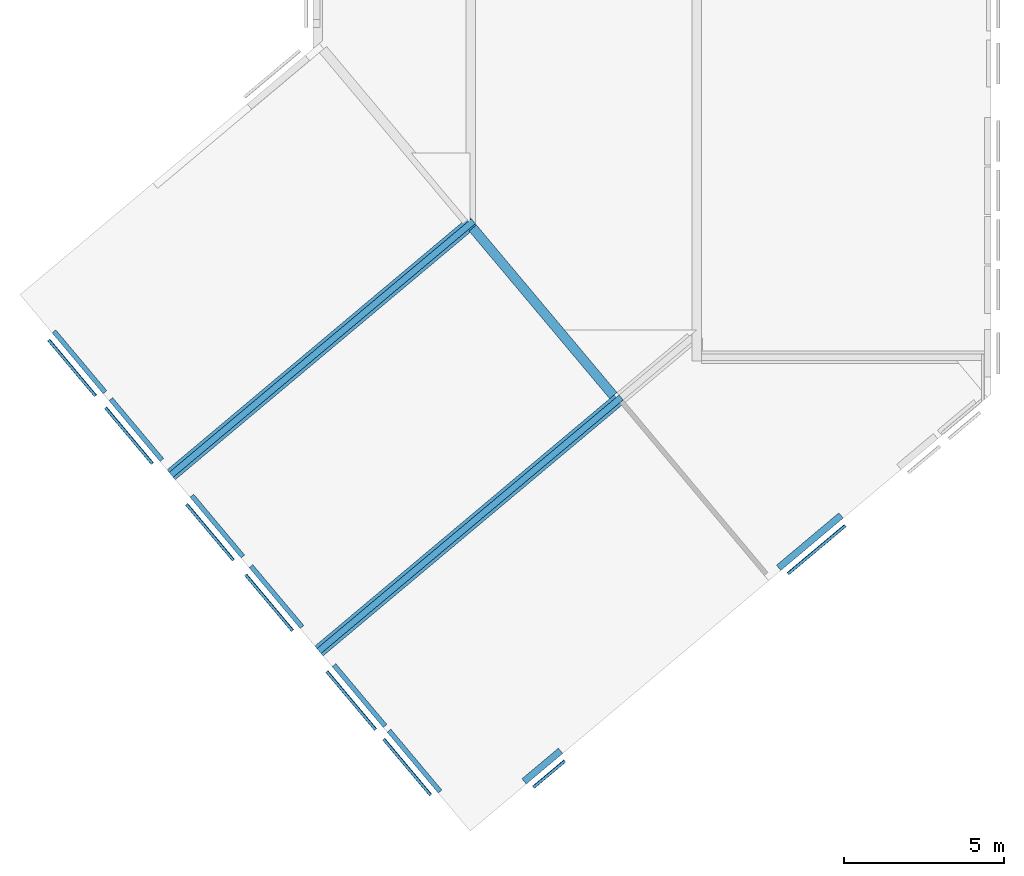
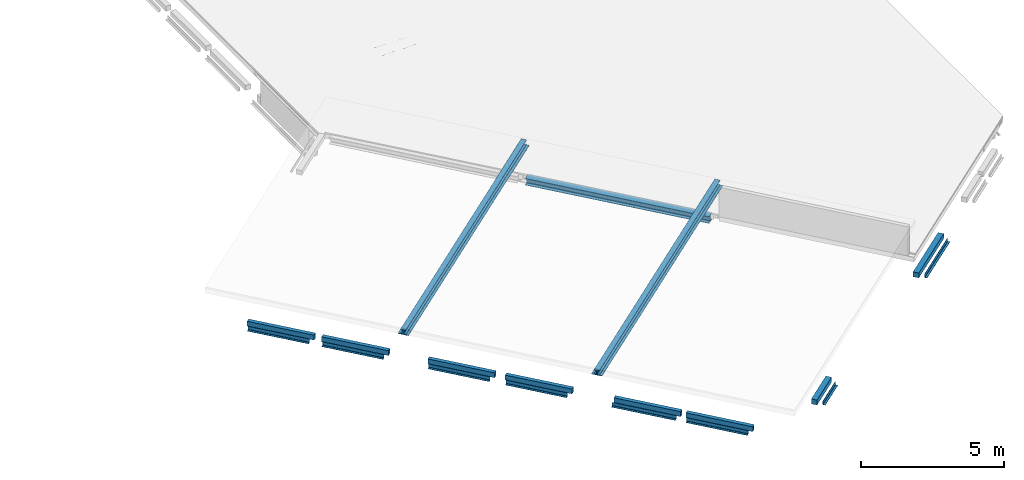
# One storey, part 2 of 9: 19 beams.
"""IFC2X3 building model written with IfcOpenShell, lengths in millimetres."""

from ifc_helpers import new_model, entity, si_unit, converted_unit, derived_unit, direction, frame, frame_2d, origin, origin_2d_with_axis, place, context, subcontext, project, spatial, polyline, circle_curve, parameter, trimmed, segment, composite_curve, rectangle, i_section, outline, extrude, source, transform, mapped, material, material_list, type_object, type_shapes, element, save


model = new_model("IFC2X3")

# Units and contexts
model_context = context("Model", 3, precision=0.01, world=origin(), true_north=direction((6.12303176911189e-17, 1.0)))
body_context = subcontext(model_context, "Body", "Model", "MODEL_VIEW")
ifc_project = project(units=[si_unit("LENGTHUNIT", "METRE", prefix="MILLI"), si_unit("AREAUNIT", "SQUARE_METRE"), si_unit("VOLUMEUNIT", "CUBIC_METRE"), converted_unit("PLANEANGLEUNIT", "DEGREE", entity("IfcRatioMeasure", 0.0174532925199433), si_unit("PLANEANGLEUNIT", "RADIAN"), dimensions=[0, 0, 0, 0, 0, 0, 0]), si_unit("MASSUNIT", "GRAM", prefix="KILO"), derived_unit("MASSDENSITYUNIT", [(si_unit("MASSUNIT", "GRAM", prefix="KILO"), 1), (si_unit("LENGTHUNIT", "METRE"), -3)]), derived_unit("MOMENTOFINERTIAUNIT", [(si_unit("LENGTHUNIT", "METRE"), 4)]), si_unit("TIMEUNIT", "SECOND"), si_unit("FREQUENCYUNIT", "HERTZ"), si_unit("THERMODYNAMICTEMPERATUREUNIT", "DEGREE_CELSIUS"), derived_unit("THERMALTRANSMITTANCEUNIT", [(si_unit("MASSUNIT", "GRAM", prefix="KILO"), 1), (si_unit("THERMODYNAMICTEMPERATUREUNIT", "KELVIN"), -1), (si_unit("TIMEUNIT", "SECOND"), -3)]), derived_unit("VOLUMETRICFLOWRATEUNIT", [(si_unit("LENGTHUNIT", "METRE"), 3), (si_unit("TIMEUNIT", "SECOND"), -1)]), si_unit("ELECTRICCURRENTUNIT", "AMPERE"), si_unit("ELECTRICVOLTAGEUNIT", "VOLT"), si_unit("POWERUNIT", "WATT"), si_unit("FORCEUNIT", "NEWTON", prefix="KILO"), si_unit("ILLUMINANCEUNIT", "LUX"), si_unit("LUMINOUSFLUXUNIT", "LUMEN"), si_unit("LUMINOUSINTENSITYUNIT", "CANDELA"), derived_unit("USERDEFINED", [(si_unit("MASSUNIT", "GRAM", prefix="KILO"), -1), (si_unit("LENGTHUNIT", "METRE"), -2), (si_unit("TIMEUNIT", "SECOND"), 3), (si_unit("LUMINOUSFLUXUNIT", "LUMEN"), 1)]), derived_unit("LINEARVELOCITYUNIT", [(si_unit("LENGTHUNIT", "METRE"), 1), (si_unit("TIMEUNIT", "SECOND"), -1)]), si_unit("PRESSUREUNIT", "PASCAL"), derived_unit("USERDEFINED", [(si_unit("LENGTHUNIT", "METRE"), -2), (si_unit("MASSUNIT", "GRAM", prefix="KILO"), 1), (si_unit("TIMEUNIT", "SECOND"), -2)]), derived_unit("LINEARFORCEUNIT", [(si_unit("MASSUNIT", "GRAM", prefix="KILO"), 1), (si_unit("LENGTHUNIT", "METRE"), 1), (si_unit("TIMEUNIT", "SECOND"), -2), (si_unit("LENGTHUNIT", "METRE"), -1)]), derived_unit("PLANARFORCEUNIT", [(si_unit("MASSUNIT", "GRAM", prefix="KILO"), 1), (si_unit("LENGTHUNIT", "METRE"), 1), (si_unit("TIMEUNIT", "SECOND"), -2), (si_unit("LENGTHUNIT", "METRE"), -2)])], contexts=[model_context])

# Site, building, storey
site_placement = place(None, origin())
site = spatial("IfcSite", under=ifc_project, at=site_placement, Name="Default", CompositionType="ELEMENT")
building_placement = place(site_placement, origin())
building = spatial("IfcBuilding", under=site, at=building_placement, CompositionType="ELEMENT")
storey_placement = place(building_placement, frame((0.0, 0.0, 7000.0)))
storey = spatial("IfcBuildingStorey", under=building, at=storey_placement, Name="02 tweede verdieping", CompositionType="ELEMENT", Elevation=7000.00000000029)

# Beams
ifc_material_1 = material(Name="00_Staal_generiek")
beam_type_1 = type_object("IfcBeamType", Name="BERSnl_28_SF_LIB_balk hoeklijn ongelijk_gen_ISR:balk gen l150x100x10", PredefinedType="BEAM")
beam_1_placement = place(storey_placement, frame((20705.4451125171, -11503.505452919, 1390.0), z_axis=(0.0, 0.0, 1.0), x_axis=(0.766044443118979, 0.642787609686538, 0.0)))
element("IfcBeam", 1, at=beam_1_placement, inside=storey, type_object=beam_type_1, material=ifc_material_1, Name="BERSnl_28_SF_LIB_balk hoeklijn ongelijk_gen_ISR:balk gen l150x100x10", ObjectType="BERSnl_28_SF_LIB_balk hoeklijn ongelijk_gen_ISR:balk gen l150x100x10", context=body_context, shape_type="SweptSolid", body=[
    extrude(outline(composite_curve([segment(polyline([(50.4444444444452, -62.2222222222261), (54.4444444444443, -62.2222222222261)]), True, "CONTINUOUS"), segment(polyline([(54.4444444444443, -62.2222222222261), (54.4444444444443, 37.7777777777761)]), True, "CONTINUOUS"), segment(polyline([(54.4444444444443, 37.7777777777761), (-95.5555555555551, 37.7777777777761)]), True, "CONTINUOUS"), segment(polyline([(-95.5555555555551, 37.7777777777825), (-95.5555555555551, 33.7777777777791)]), True, "CONTINUOUS"), segment(trimmed(circle_curve(frame_2d((-89.5555555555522, 33.7777777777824), x_axis=(-1.0, 0.0)), 6.00000000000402), [parameter(0.0)], [parameter(89.9999999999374)], True, "PARAMETER"), True, "CONTINUOUS"), segment(polyline([(-89.5555555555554, 27.7777777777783), (32.444444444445, 27.7777777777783)]), True, "CONTINUOUS"), segment(trimmed(circle_curve(frame_2d((32.444444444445, 15.7777777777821), x_axis=(0.0, 1.0)), 11.9999999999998), [parameter(269.999999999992)], [parameter(0.0)], True, "PARAMETER"), False, "CONTINUOUS"), segment(polyline([(44.4444444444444, 15.7777777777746), (44.4444444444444, -56.2222222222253)]), True, "CONTINUOUS"), segment(trimmed(circle_curve(frame_2d((50.4444444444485, -56.2222222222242), x_axis=(-1.0, 0.0)), 6.00000000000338), [parameter(0.0)], [parameter(89.9999999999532)], True, "PARAMETER"), True, "CONTINUOUS")], self_intersect=False)), frame((-294.980397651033, -14.3777777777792, -95.5555555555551), z_axis=(1.0, 0.0, 0.0), x_axis=(0.0, 0.0, -1.0)), (0.0, 0.0, 1.0), 1287.99999999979),
])
beam_2_placement = place(storey_placement, frame((16790.7050205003, -11326.9549183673, 1390.0), z_axis=(0.0, 0.0, 1.0), x_axis=(-0.642787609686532, 0.766044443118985, 0.0)))
element("IfcBeam", 2, at=beam_2_placement, inside=storey, type_object=beam_type_1, material=ifc_material_1, Name="BERSnl_28_SF_LIB_balk hoeklijn ongelijk_gen_ISR:balk gen l150x100x10", ObjectType="BERSnl_28_SF_LIB_balk hoeklijn ongelijk_gen_ISR:balk gen l150x100x10", context=body_context, shape_type="SweptSolid", body=[
    extrude(outline(composite_curve([segment(polyline([(-95.5555555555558, -37.7777777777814), (54.4444444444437, -37.7777777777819)]), True, "CONTINUOUS"), segment(polyline([(54.4444444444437, -37.7777777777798), (54.4444444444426, 62.2222222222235)]), True, "CONTINUOUS"), segment(polyline([(54.4444444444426, 62.2222222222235), (50.4444444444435, 62.2222222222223)]), True, "CONTINUOUS"), segment(trimmed(circle_curve(frame_2d((50.4444444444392, 56.222222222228), x_axis=(0.0, 1.0)), 5.99999999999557), [parameter(0.0)], [parameter(90.0000000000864)], True, "PARAMETER"), True, "CONTINUOUS"), segment(polyline([(44.4444444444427, 56.2222222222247), (44.4444444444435, -15.7777777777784)]), True, "CONTINUOUS"), segment(trimmed(circle_curve(frame_2d((32.4444444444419, -15.7777777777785), x_axis=(1.0, 0.0)), 12.0000000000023), [parameter(270.000000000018)], [parameter(0.0)], True, "PARAMETER"), False, "CONTINUOUS"), segment(polyline([(32.4444444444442, -27.7777777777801), (-89.5555555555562, -27.7777777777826)]), True, "CONTINUOUS"), segment(trimmed(circle_curve(frame_2d((-89.5555555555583, -33.7777777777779), x_axis=(0.0, 1.0)), 5.99999999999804), [parameter(0.0)], [parameter(90.0000000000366)], True, "PARAMETER"), True, "CONTINUOUS"), segment(polyline([(-95.5555555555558, -33.7777777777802), (-95.5555555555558, -37.7777777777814)]), True, "CONTINUOUS")], self_intersect=False)), frame((-796.191982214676, 14.3777777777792, -95.5555555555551), z_axis=(1.0, 0.0, 0.0), x_axis=(0.0, 0.0, -1.0)), (0.0, 0.0, 1.0), 2286.0),
])
beam_3_placement = place(storey_placement, frame((15123.2910141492, -9345.07651674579, 1390.0), z_axis=(0.0, 0.0, 1.0), x_axis=(-0.642787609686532, 0.766044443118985, 0.0)))
element("IfcBeam", 3, at=beam_3_placement, inside=storey, type_object=beam_type_1, material=ifc_material_1, Name="BERSnl_28_SF_LIB_balk hoeklijn ongelijk_gen_ISR:balk gen l150x100x10", ObjectType="BERSnl_28_SF_LIB_balk hoeklijn ongelijk_gen_ISR:balk gen l150x100x10", context=body_context, shape_type="SweptSolid", body=[
    extrude(outline(composite_curve([segment(polyline([(-95.5555555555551, -37.7777777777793), (54.4444444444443, -37.7777777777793)]), True, "CONTINUOUS"), segment(polyline([(54.4444444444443, -37.7777777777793), (54.4444444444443, 62.222222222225)]), True, "CONTINUOUS"), segment(polyline([(54.4444444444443, 62.2222222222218), (50.4444444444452, 62.2222222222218)]), True, "CONTINUOUS"), segment(trimmed(circle_curve(frame_2d((50.444444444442, 56.2222222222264), x_axis=(0.0, 1.0)), 5.99999999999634), [parameter(0.0)], [parameter(90.0000000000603)], True, "PARAMETER"), True, "CONTINUOUS"), segment(polyline([(44.4444444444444, 56.2222222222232), (44.4444444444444, -15.777777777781)]), True, "CONTINUOUS"), segment(trimmed(circle_curve(frame_2d((32.4444444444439, -15.7777777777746), x_axis=(1.0, 0.0)), 12.000000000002), [parameter(270.00000000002)], [parameter(0.0)], True, "PARAMETER"), False, "CONTINUOUS"), segment(polyline([(32.444444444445, -27.7777777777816), (-89.5555555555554, -27.7777777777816)]), True, "CONTINUOUS"), segment(trimmed(circle_curve(frame_2d((-89.5555555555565, -33.7777777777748), x_axis=(0.0, 1.0)), 5.99999999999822), [parameter(0.0)], [parameter(90.0000000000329)], True, "PARAMETER"), True, "CONTINUOUS"), segment(polyline([(-95.5555555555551, -33.777777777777), (-95.5555555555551, -37.7777777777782)]), True, "CONTINUOUS")], self_intersect=False)), frame((-712.191982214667, 14.3777777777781, -95.5555555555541), z_axis=(1.0, 0.0, 0.0), x_axis=(0.0, 0.0, -1.0)), (0.0, 0.0, 1.0), 2381.99999999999),
])
beam_4_placement = place(storey_placement, frame((10784.4746487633, -4174.27652569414, 1390.0), z_axis=(0.0, 0.0, 1.0), x_axis=(-0.642787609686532, 0.766044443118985, 0.0)))
element("IfcBeam", 4, at=beam_4_placement, inside=storey, type_object=beam_type_1, material=ifc_material_1, Name="BERSnl_28_SF_LIB_balk hoeklijn ongelijk_gen_ISR:balk gen l150x100x10", ObjectType="BERSnl_28_SF_LIB_balk hoeklijn ongelijk_gen_ISR:balk gen l150x100x10", context=body_context, shape_type="SweptSolid", body=[
    extrude(outline(composite_curve([segment(polyline([(-95.5555555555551, -37.7777777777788), (54.4444444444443, -37.7777777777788)]), True, "CONTINUOUS"), segment(polyline([(54.4444444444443, -37.7777777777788), (54.4444444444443, 62.2222222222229)]), True, "CONTINUOUS"), segment(polyline([(54.4444444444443, 62.2222222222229), (50.4444444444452, 62.2222222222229)]), True, "CONTINUOUS"), segment(trimmed(circle_curve(frame_2d((50.444444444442, 56.2222222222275), x_axis=(0.0, 1.0)), 5.9999999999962), [parameter(0.0)], [parameter(90.0000000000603)], True, "PARAMETER"), True, "CONTINUOUS"), segment(polyline([(44.4444444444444, 56.2222222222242), (44.4444444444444, -15.7777777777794)]), True, "CONTINUOUS"), segment(trimmed(circle_curve(frame_2d((32.4444444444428, -15.7777777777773), x_axis=(1.0, 0.0)), 12.0000000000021), [parameter(270.000000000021)], [parameter(0.0)], True, "PARAMETER"), False, "CONTINUOUS"), segment(polyline([(32.444444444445, -27.7777777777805), (-89.5555555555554, -27.7777777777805)]), True, "CONTINUOUS"), segment(trimmed(circle_curve(frame_2d((-89.5555555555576, -33.7777777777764), x_axis=(0.0, 1.0)), 5.99999999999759), [parameter(0.0)], [parameter(90.0000000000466)], True, "PARAMETER"), True, "CONTINUOUS"), segment(polyline([(-95.5555555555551, -33.7777777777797), (-95.5555555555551, -37.7777777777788)]), True, "CONTINUOUS")], self_intersect=False)), frame((-537.191982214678, 14.3777777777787, -95.5555555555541), z_axis=(1.0, 0.0, 0.0), x_axis=(0.0, 0.0, -1.0)), (0.0, 0.0, 1.0), 2286.0),
])
beam_5_placement = place(storey_placement, frame((12545.7126993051, -6273.23829983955, 1390.0), z_axis=(0.0, 0.0, 1.0), x_axis=(-0.642787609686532, 0.766044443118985, 0.0)))
element("IfcBeam", 5, at=beam_5_placement, inside=storey, type_object=beam_type_1, material=ifc_material_1, Name="BERSnl_28_SF_LIB_balk hoeklijn ongelijk_gen_ISR:balk gen l150x100x10", ObjectType="BERSnl_28_SF_LIB_balk hoeklijn ongelijk_gen_ISR:balk gen l150x100x10", context=body_context, shape_type="SweptSolid", body=[
    extrude(outline(composite_curve([segment(polyline([(-95.5555555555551, -37.7777777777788), (54.4444444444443, -37.7777777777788)]), True, "CONTINUOUS"), segment(polyline([(54.4444444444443, -37.7777777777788), (54.4444444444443, 62.2222222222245)]), True, "CONTINUOUS"), segment(polyline([(54.4444444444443, 62.2222222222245), (50.4444444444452, 62.2222222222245)]), True, "CONTINUOUS"), segment(trimmed(circle_curve(frame_2d((50.444444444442, 56.2222222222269), x_axis=(0.0, 1.0)), 5.99999999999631), [parameter(0.0)], [parameter(90.0000000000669)], True, "PARAMETER"), True, "CONTINUOUS"), segment(polyline([(44.4444444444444, 56.2222222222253), (44.4444444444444, -15.7777777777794)]), True, "CONTINUOUS"), segment(trimmed(circle_curve(frame_2d((32.4444444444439, -15.7777777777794), x_axis=(1.0, 0.0)), 12.0000000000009), [parameter(270.000000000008)], [parameter(0.0)], True, "PARAMETER"), False, "CONTINUOUS"), segment(polyline([(32.444444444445, -27.7777777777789), (-89.5555555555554, -27.7777777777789)]), True, "CONTINUOUS"), segment(trimmed(circle_curve(frame_2d((-89.5555555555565, -33.777777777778), x_axis=(0.0, 1.0)), 5.99999999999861), [parameter(0.0)], [parameter(90.0000000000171)], True, "PARAMETER"), True, "CONTINUOUS"), segment(polyline([(-95.5555555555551, -33.777777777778), (-95.5555555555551, -37.7777777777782)]), True, "CONTINUOUS")], self_intersect=False)), frame((-677.191982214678, 14.3777777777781, -95.5555555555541), z_axis=(1.0, 0.0, 0.0), x_axis=(0.0, 0.0, -1.0)), (0.0, 0.0, 1.0), 2286.0),
])
beam_6_placement = place(storey_placement, frame((6445.65828337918, 996.523465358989, 1390.0), z_axis=(0.0, 0.0, 1.0), x_axis=(-0.642787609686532, 0.766044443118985, 0.0)))
element("IfcBeam", 6, at=beam_6_placement, inside=storey, type_object=beam_type_1, material=ifc_material_1, Name="BERSnl_28_SF_LIB_balk hoeklijn ongelijk_gen_ISR:balk gen l150x100x10", ObjectType="BERSnl_28_SF_LIB_balk hoeklijn ongelijk_gen_ISR:balk gen l150x100x10", context=body_context, shape_type="SweptSolid", body=[
    extrude(outline(composite_curve([segment(polyline([(-95.5555555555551, -37.7777777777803), (54.4444444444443, -37.7777777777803)]), True, "CONTINUOUS"), segment(polyline([(54.4444444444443, -37.7777777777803), (54.4444444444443, 62.2222222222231)]), True, "CONTINUOUS"), segment(polyline([(54.4444444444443, 62.2222222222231), (50.4444444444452, 62.2222222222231)]), True, "CONTINUOUS"), segment(trimmed(circle_curve(frame_2d((50.4444444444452, 56.2222222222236), x_axis=(0.0, 1.0)), 6.00000000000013), [parameter(0.0)], [parameter(90.0000000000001)], True, "PARAMETER"), True, "CONTINUOUS"), segment(polyline([(44.4444444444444, 56.2222222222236), (44.4444444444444, -15.7777777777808)]), True, "CONTINUOUS"), segment(trimmed(circle_curve(frame_2d((32.444444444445, -15.7777777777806), x_axis=(1.0, 0.0)), 12.0000000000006), [parameter(270.000000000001)], [parameter(0.0)], True, "PARAMETER"), False, "CONTINUOUS"), segment(polyline([(32.444444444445, -27.7777777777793), (-89.5555555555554, -27.7777777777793)]), True, "CONTINUOUS"), segment(trimmed(circle_curve(frame_2d((-89.5555555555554, -33.77777777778), x_axis=(0.0, 1.0)), 6.00000000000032), [parameter(0.0)], [parameter(89.9999999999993)], True, "PARAMETER"), True, "CONTINUOUS"), segment(polyline([(-95.5555555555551, -33.7777777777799), (-95.5555555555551, -37.7777777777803)]), True, "CONTINUOUS")], self_intersect=False)), frame((-570.19198221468, 14.3777777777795, -95.5555555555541), z_axis=(1.0, 0.0, 0.0), x_axis=(0.0, 0.0, -1.0)), (0.0, 0.0, 1.0), 2286.0),
])
beam_7_placement = place(storey_placement, frame((8206.89633392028, -1102.43830878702, 1390.0), z_axis=(0.0, 0.0, 1.0), x_axis=(-0.642787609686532, 0.766044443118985, 0.0)))
element("IfcBeam", 7, at=beam_7_placement, inside=storey, type_object=beam_type_1, material=ifc_material_1, Name="BERSnl_28_SF_LIB_balk hoeklijn ongelijk_gen_ISR:balk gen l150x100x10", ObjectType="BERSnl_28_SF_LIB_balk hoeklijn ongelijk_gen_ISR:balk gen l150x100x10", context=body_context, shape_type="SweptSolid", body=[
    extrude(outline(composite_curve([segment(polyline([(-95.5555555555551, -37.7777777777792), (54.4444444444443, -37.7777777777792)]), True, "CONTINUOUS"), segment(polyline([(54.4444444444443, -37.7777777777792), (54.4444444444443, 62.2222222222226)]), True, "CONTINUOUS"), segment(polyline([(54.4444444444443, 62.2222222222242), (50.4444444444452, 62.2222222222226)]), True, "CONTINUOUS"), segment(trimmed(circle_curve(frame_2d((50.4444444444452, 56.2222222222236), x_axis=(0.0, 1.0)), 6.00000000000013), [parameter(0.0)], [parameter(90.0000000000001)], True, "PARAMETER"), True, "CONTINUOUS"), segment(polyline([(44.4444444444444, 56.2222222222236), (44.4444444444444, -15.7777777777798)]), True, "CONTINUOUS"), segment(trimmed(circle_curve(frame_2d((32.444444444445, -15.7777777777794), x_axis=(1.0, 0.0)), 12.0000000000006), [parameter(270.000000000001)], [parameter(0.0)], True, "PARAMETER"), False, "CONTINUOUS"), segment(polyline([(32.444444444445, -27.7777777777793), (-89.5555555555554, -27.7777777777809)]), True, "CONTINUOUS"), segment(trimmed(circle_curve(frame_2d((-89.5555555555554, -33.7777777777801), x_axis=(0.0, 1.0)), 6.00000000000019), [parameter(0.0)], [parameter(89.9999999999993)], True, "PARAMETER"), True, "CONTINUOUS"), segment(polyline([(-95.5555555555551, -33.7777777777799), (-95.5555555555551, -37.7777777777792)]), True, "CONTINUOUS")], self_intersect=False)), frame((-598.191982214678, 14.3777777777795, -95.5555555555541), z_axis=(1.0, 0.0, 0.0), x_axis=(0.0, 0.0, -1.0)), (0.0, 0.0, 1.0), 2286.0),
])
beam_8_placement = place(storey_placement, frame((28728.2595356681, -4771.56482944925, -30.0), z_axis=(0.0, 0.0, 1.0), x_axis=(0.766044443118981, 0.642787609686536, 0.0)))
element("IfcBeam", 8, at=beam_8_placement, inside=storey, type_object=beam_type_1, material=ifc_material_1, Name="BERSnl_28_SF_LIB_balk hoeklijn ongelijk_gen_ISR:balk gen l150x100x10", ObjectType="BERSnl_28_SF_LIB_balk hoeklijn ongelijk_gen_ISR:balk gen l150x100x10", context=body_context, shape_type="SweptSolid", body=[
    extrude(outline(composite_curve([segment(polyline([(50.4444444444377, -62.2222222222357), (54.4444444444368, -62.2222222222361)]), True, "CONTINUOUS"), segment(polyline([(54.4444444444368, -62.2222222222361), (54.4444444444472, 37.7777777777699)]), True, "CONTINUOUS"), segment(polyline([(54.4444444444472, 37.7777777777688), (-95.5555555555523, 37.7777777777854)]), True, "CONTINUOUS"), segment(polyline([(-95.5555555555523, 37.7777777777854), (-95.5555555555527, 33.777777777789)]), True, "CONTINUOUS"), segment(trimmed(circle_curve(frame_2d((-89.5555555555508, 33.77777777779), x_axis=(-1.0, 0.0)), 6.00000000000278), [parameter(0.0)], [parameter(89.9999999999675)], True, "PARAMETER"), True, "CONTINUOUS"), segment(polyline([(-89.5555555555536, 27.777777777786), (32.4444444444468, 27.7777777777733)]), True, "CONTINUOUS"), segment(trimmed(circle_curve(frame_2d((32.4444444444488, 15.7777777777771), x_axis=(0.0, 1.0)), 11.9999999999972), [parameter(269.999999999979)], [parameter(0.0)], True, "PARAMETER"), False, "CONTINUOUS"), segment(polyline([(44.444444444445, 15.7777777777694), (44.4444444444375, -56.2222222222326)]), True, "CONTINUOUS"), segment(trimmed(circle_curve(frame_2d((50.4444444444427, -56.2222222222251), x_axis=(-1.0, 0.0)), 6.00000000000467), [parameter(0.0)], [parameter(89.9999999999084)], True, "PARAMETER"), True, "CONTINUOUS")], self_intersect=False)), frame((-365.020826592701, -14.3777777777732, -95.5555555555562), z_axis=(1.0, 0.0, 0.0), x_axis=(0.0, 0.0, -1.0)), (0.0, 0.0, 1.0), 2350.00000000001),
])
ifc_material_2 = material(Name="f2_beton prefab")
beam_type_2 = type_object("IfcBeamType", Name="BERSnl_28_SF_LIB_balk vierkant prefab_gen_ISR:balk vierkant gen 150x210", PredefinedType="JOIST")
beam_9_placement = place(storey_placement, frame((11006.4721143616, -4016.018296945, 1460.0), z_axis=(0.0, 0.0, 1.0), x_axis=(-0.642787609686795, 0.766044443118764, 0.0)))
element("IfcBeam", 9, at=beam_9_placement, inside=storey, type_object=beam_type_2, material=ifc_material_2, Name="BERSnl_28_SF_LIB_balk vierkant prefab_gen_ISR:balk vierkant gen 150x210", ObjectType="BERSnl_28_SF_LIB_balk vierkant prefab_gen_ISR:balk vierkant gen 150x210", context=body_context, shape_type="SweptSolid", body=[
    extrude(rectangle(XDim=210.000000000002, YDim=149.999999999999, at=frame_2d((0.0, -1.35003119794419e-12), x_axis=(1.0, 0.0))), frame((-615.727598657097, 0.0, -105.0), z_axis=(1.0, 0.0, 0.0), x_axis=(0.0, 0.0, -1.0)), (0.0, 0.0, 1.0), 2486.57079528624),
])
beam_10_placement = place(storey_placement, frame((12857.7004302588, -6222.22629312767, 1460.0), z_axis=(0.0, 0.0, 1.0), x_axis=(-0.642787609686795, 0.766044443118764, 0.0)))
element("IfcBeam", 10, at=beam_10_placement, inside=storey, type_object=beam_type_2, material=ifc_material_2, Name="BERSnl_28_SF_LIB_balk vierkant prefab_gen_ISR:balk vierkant gen 150x210", ObjectType="BERSnl_28_SF_LIB_balk vierkant prefab_gen_ISR:balk vierkant gen 150x210", context=body_context, shape_type="SweptSolid", body=[
    extrude(rectangle(XDim=210.000000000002, YDim=149.999999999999, at=frame_2d((0.0, 1.17239551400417e-12), x_axis=(1.0, 0.0))), frame((-615.727598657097, 0.0, -105.0), z_axis=(1.0, 0.0, 0.0), x_axis=(0.0, 0.0, -1.0)), (0.0, 0.0, 1.0), 2486.57079528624),
])
beam_11_placement = place(storey_placement, frame((15457.7763114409, -9320.87606554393, 1460.0), z_axis=(0.0, 0.0, 1.0), x_axis=(-0.642787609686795, 0.766044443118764, 0.0)))
element("IfcBeam", 11, at=beam_11_placement, inside=storey, type_object=beam_type_2, material=ifc_material_2, Name="BERSnl_28_SF_LIB_balk vierkant prefab_gen_ISR:balk vierkant gen 150x210", ObjectType="BERSnl_28_SF_LIB_balk vierkant prefab_gen_ISR:balk vierkant gen 150x210", context=body_context, shape_type="SweptSolid", body=[
    extrude(rectangle(XDim=210.000000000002, YDim=149.999999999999, at=frame_2d((0.0, -1.86872739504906e-12), x_axis=(1.0, 0.0))), frame((-615.727598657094, 0.0, -105.0), z_axis=(1.0, 0.0, 0.0), x_axis=(0.0, 0.0, -1.0)), (0.0, 0.0, 1.0), 2486.57079528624),
])
beam_12_placement = place(storey_placement, frame((17180.4471054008, -11373.8751731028, 1460.0), z_axis=(0.0, 0.0, 1.0), x_axis=(-0.642787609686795, 0.766044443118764, 0.0)))
element("IfcBeam", 12, at=beam_12_placement, inside=storey, type_object=beam_type_2, material=ifc_material_2, Name="BERSnl_28_SF_LIB_balk vierkant prefab_gen_ISR:balk vierkant gen 150x210", ObjectType="BERSnl_28_SF_LIB_balk vierkant prefab_gen_ISR:balk vierkant gen 150x210", context=body_context, shape_type="SweptSolid", body=[
    extrude(rectangle(XDim=210.000000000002, YDim=149.999999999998, at=frame_2d((0.0, -1.52056145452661e-12), x_axis=(1.0, 0.0))), frame((-615.727598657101, 0.0, -105.0), z_axis=(1.0, 0.0, 0.0), x_axis=(0.0, 0.0, -1.0)), (0.0, 0.0, 1.0), 2486.57079528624),
])
beam_13_placement = place(storey_placement, frame((8469.38941892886, -992.440879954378, 1460.0), z_axis=(0.0, 0.0, 1.0), x_axis=(-0.642787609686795, 0.766044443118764, 0.0)))
element("IfcBeam", 13, at=beam_13_placement, inside=storey, type_object=beam_type_2, material=ifc_material_2, Name="BERSnl_28_SF_LIB_balk vierkant prefab_gen_ISR:balk vierkant gen 150x210", ObjectType="BERSnl_28_SF_LIB_balk vierkant prefab_gen_ISR:balk vierkant gen 150x210", context=body_context, shape_type="SweptSolid", body=[
    extrude(rectangle(XDim=210.000000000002, YDim=149.999999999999, at=frame_2d((0.0, 1.25766064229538e-12), x_axis=(1.0, 0.0))), frame((-615.727598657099, 0.0, -105.0), z_axis=(1.0, 0.0, 0.0), x_axis=(0.0, 0.0, -1.0)), (0.0, 0.0, 1.0), 2486.57079528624),
])
beam_14_placement = place(storey_placement, frame((6688.86774009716, 1129.5022274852, 1460.0), z_axis=(0.0, 0.0, 1.0), x_axis=(-0.642787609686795, 0.766044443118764, 0.0)))
element("IfcBeam", 14, at=beam_14_placement, inside=storey, type_object=beam_type_2, material=ifc_material_2, Name="BERSnl_28_SF_LIB_balk vierkant prefab_gen_ISR:balk vierkant gen 150x210", ObjectType="BERSnl_28_SF_LIB_balk vierkant prefab_gen_ISR:balk vierkant gen 150x210", context=body_context, shape_type="SweptSolid", body=[
    extrude(rectangle(XDim=210.000000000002, YDim=149.999999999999, at=frame_2d((0.0, -4.2632564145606e-14), x_axis=(1.0, 0.0))), frame((-615.727598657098, 0.0, -105.0), z_axis=(1.0, 0.0, 0.0), x_axis=(0.0, 0.0, -1.0)), (0.0, 0.0, 1.0), 2486.57079528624),
])
beam_type_3 = type_object("IfcBeamType", Name="BERSnl_28_SF_LIB_balk vierkant prefab_gen_ISR:balk vierkant gen 214x210", PredefinedType="JOIST")
beam_15_placement = place(storey_placement, frame((20477.5345510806, -11302.6007712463, 1460.0), z_axis=(0.0, 0.0, 1.0), x_axis=(0.766044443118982, 0.642787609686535, 0.0)))
element("IfcBeam", 15, at=beam_15_placement, inside=storey, type_object=beam_type_3, material=ifc_material_2, Name="BERSnl_28_SF_LIB_balk vierkant prefab_gen_ISR:balk vierkant gen 214x210", ObjectType="BERSnl_28_SF_LIB_balk vierkant prefab_gen_ISR:balk vierkant gen 214x210", context=body_context, shape_type="SweptSolid", body=[
    extrude(rectangle(XDim=210.000000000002, YDim=213.999999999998, at=frame_2d((0.0, -2.21689333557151e-12), x_axis=(1.0, 0.0))), frame((-349.529818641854, 0.0, -105.0), z_axis=(1.0, 0.0, 0.0), x_axis=(0.0, 0.0, -1.0)), (0.0, 0.0, 1.0), 1487.7446138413),
])
beam_16_placement = place(storey_placement, frame((28922.4178996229, -4216.5022681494, 40.0), z_axis=(0.0, 0.0, 1.0), x_axis=(0.766044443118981, 0.642787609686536, 0.0)))
element("IfcBeam", 16, at=beam_16_placement, inside=storey, type_object=beam_type_3, material=ifc_material_2, Name="BERSnl_28_SF_LIB_balk vierkant prefab_gen_ISR:balk vierkant gen 214x210", ObjectType="BERSnl_28_SF_LIB_balk vierkant prefab_gen_ISR:balk vierkant gen 214x210", context=body_context, shape_type="SweptSolid", body=[
    extrude(rectangle(XDim=210.000000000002, YDim=213.999999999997, at=frame_2d((0.0, -2.22399876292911e-12), x_axis=(1.0, 0.0))), frame((-970.542099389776, 0.0, -105.0), z_axis=(1.0, 0.0, 0.0), x_axis=(0.0, 0.0, -1.0)), (0.0, 0.0, 1.0), 2550.0),
])
beam_type_4 = type_object("IfcBeamType", Name="BERSnl_28_SF_LIB_balk hea -SH_gen_ISR:balk gen hea300", PredefinedType="BEAM")
beam_17_placement = place(storey_placement, frame((22829.1968048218, 757.358582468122, 1055.0), z_axis=(0.0, 0.0, 1.0), x_axis=(-0.642787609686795, 0.766044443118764, 0.0)))
element("IfcBeam", 17, at=beam_17_placement, inside=storey, type_object=beam_type_4, material=ifc_material_1, Name="BERSnl_28_SF_LIB_balk hea -SH_gen_ISR:balk gen hea300", ObjectType="BERSnl_28_SF_LIB_balk hea -SH_gen_ISR:balk gen hea300", context=body_context, shape_type="SweptSolid", body=[
    extrude(i_section(OverallWidth=299.999999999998, OverallDepth=289.999999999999, WebThickness=8.49999999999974, FlangeThickness=14.0000000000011, FilletRadius=27.000000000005, at=frame_2d((0.0, 2.33058017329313e-12), x_axis=(0.0, 1.0))), frame((-270.104118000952, 0.0, -145.0), z_axis=(1.0, 0.0, 0.0), x_axis=(0.0, 0.0, -1.0)), (0.0, 0.0, 1.0), 6848.90443103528),
])
ifc_material_3 = material(Name="<Unnamed>")
ifc_material_list_1 = material_list([ifc_material_3, ifc_material_1])
beam_type_5 = type_object("IfcBeamType", Name="BERSnl_28_SF_LIB_balk sfb_gen_ISR:balk gen heb200 400x15", PredefinedType="T_BEAM", material=ifc_material_list_1)
shared_shape_1 = source(origin(), body_context, "Body", "SweptSolid", [
    extrude(rectangle(XDim=15.0, YDim=400.0, at=origin_2d_with_axis()), frame((-6455.0, 0.0, -60.5000000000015), z_axis=(1.0, 0.0, 0.0), x_axis=(0.0, 0.0, -1.0)), (0.0, 0.0, 1.0), 12350.0),
    extrude(outline(composite_curve([segment(polyline([(85.0, -100.0), (100.0, -100.0)]), True, "CONTINUOUS"), segment(polyline([(100.0, -100.0), (100.0, 100.0)]), True, "CONTINUOUS"), segment(polyline([(100.0, 100.0), (85.0, 100.0)]), True, "CONTINUOUS"), segment(polyline([(85.0, 100.0), (85.0, 22.4999999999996)]), True, "CONTINUOUS"), segment(trimmed(circle_curve(frame_2d((67.0, 22.4999999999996), x_axis=(1.0, 0.0)), 18.0), [parameter(270.0)], [parameter(0.0)], True, "PARAMETER"), False, "CONTINUOUS"), segment(polyline([(67.0, 4.49999999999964), (-67.0, 4.49999999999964)]), True, "CONTINUOUS"), segment(trimmed(circle_curve(frame_2d((-67.0, 22.4999999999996), x_axis=(0.0, -1.0)), 18.0), [parameter(270.0)], [parameter(0.0)], True, "PARAMETER"), False, "CONTINUOUS"), segment(polyline([(-85.0, 22.4999999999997), (-85.0, 100.0)]), True, "CONTINUOUS"), segment(polyline([(-85.0, 100.0), (-100.0, 100.0)]), True, "CONTINUOUS"), segment(polyline([(-100.0, 100.0), (-100.0, -100.0)]), True, "CONTINUOUS"), segment(polyline([(-100.0, -100.0), (-85.0, -100.0)]), True, "CONTINUOUS"), segment(polyline([(-85.0, -100.0), (-85.0, -22.5000000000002)]), True, "CONTINUOUS"), segment(trimmed(circle_curve(frame_2d((-67.0, -22.5000000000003), x_axis=(-1.0, 0.0)), 18.0), [parameter(270.0)], [parameter(0.0)], True, "PARAMETER"), False, "CONTINUOUS"), segment(polyline([(-67.0, -4.50000000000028), (67.0, -4.50000000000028)]), True, "CONTINUOUS"), segment(trimmed(circle_curve(frame_2d((67.0, -22.5000000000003), x_axis=(0.0, 1.0)), 18.0), [parameter(270.0)], [parameter(0.0)], True, "PARAMETER"), False, "CONTINUOUS"), segment(polyline([(85.0, -22.5000000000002), (85.0, -100.0)]), True, "CONTINUOUS")], self_intersect=False)), frame((-6455.0, 0.0, 47.0), z_axis=(1.0, 0.0, 0.0), x_axis=(0.0, 0.0, -1.0)), (0.0, 0.0, 1.0), 12350.0),
])
type_shapes(beam_type_5, [shared_shape_1])
beam_18_placement = place(storey_placement, frame((18730.4756946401, -3295.60929758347, 2343.0), z_axis=(0.0, 0.0, 1.0), x_axis=(0.766044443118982, 0.642787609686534, 0.0)))
element("IfcBeam", 18, at=beam_18_placement, inside=storey, type_object=beam_type_5, Name="BERSnl_28_SF_LIB_balk sfb_gen_ISR:balk gen heb200 400x15", ObjectType="BERSnl_28_SF_LIB_balk sfb_gen_ISR:balk gen heb200 400x15", context=body_context, shape_type="MappedRepresentation", body=[
    mapped(shared_shape_1, transform((0.0, 0.0, 0.0), scale=1.0)),
])
ifc_material_list_2 = material_list([ifc_material_3, ifc_material_1])
beam_type_6 = type_object("IfcBeamType", Name="BERSnl_28_SF_LIB_balk sfb_gen_ISR:balk gen heb200 400x15", PredefinedType="T_BEAM", material=ifc_material_list_2)
shared_shape_2 = source(origin(), body_context, "Body", "SweptSolid", [
    extrude(rectangle(XDim=15.0, YDim=400.0, at=origin_2d_with_axis()), frame((-1738.90193188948, 0.0, -60.5000000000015), z_axis=(1.0, 0.0, 0.0), x_axis=(0.0, 0.0, -1.0)), (0.0, 0.0, 1.0), 12336.9019979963),
    extrude(outline(composite_curve([segment(polyline([(85.0, -100.0), (100.0, -100.0)]), True, "CONTINUOUS"), segment(polyline([(100.0, -100.0), (100.0, 100.0)]), True, "CONTINUOUS"), segment(polyline([(100.0, 100.0), (85.0, 100.0)]), True, "CONTINUOUS"), segment(polyline([(85.0, 100.0), (85.0, 22.4999999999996)]), True, "CONTINUOUS"), segment(trimmed(circle_curve(frame_2d((67.0, 22.4999999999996), x_axis=(1.0, 0.0)), 18.0), [parameter(270.0)], [parameter(0.0)], True, "PARAMETER"), False, "CONTINUOUS"), segment(polyline([(67.0, 4.49999999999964), (-67.0, 4.49999999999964)]), True, "CONTINUOUS"), segment(trimmed(circle_curve(frame_2d((-67.0, 22.4999999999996), x_axis=(0.0, -1.0)), 18.0), [parameter(270.0)], [parameter(0.0)], True, "PARAMETER"), False, "CONTINUOUS"), segment(polyline([(-85.0, 22.4999999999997), (-85.0, 100.0)]), True, "CONTINUOUS"), segment(polyline([(-85.0, 100.0), (-100.0, 100.0)]), True, "CONTINUOUS"), segment(polyline([(-100.0, 100.0), (-100.0, -100.0)]), True, "CONTINUOUS"), segment(polyline([(-100.0, -100.0), (-85.0, -100.0)]), True, "CONTINUOUS"), segment(polyline([(-85.0, -100.0), (-85.0, -22.5000000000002)]), True, "CONTINUOUS"), segment(trimmed(circle_curve(frame_2d((-67.0, -22.5000000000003), x_axis=(-1.0, 0.0)), 18.0), [parameter(270.0)], [parameter(0.0)], True, "PARAMETER"), False, "CONTINUOUS"), segment(polyline([(-67.0, -4.50000000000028), (67.0, -4.50000000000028)]), True, "CONTINUOUS"), segment(trimmed(circle_curve(frame_2d((67.0, -22.5000000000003), x_axis=(0.0, 1.0)), 18.0), [parameter(270.0)], [parameter(0.0)], True, "PARAMETER"), False, "CONTINUOUS"), segment(polyline([(85.0, -22.5000000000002), (85.0, -100.0)]), True, "CONTINUOUS")], self_intersect=False)), frame((-1740.0, 0.0, 47.0), z_axis=(1.0, 0.0, 0.0), x_axis=(0.0, 0.0, -1.0)), (0.0, 0.0, 1.0), 12350.0000661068),
])
type_shapes(beam_type_6, [shared_shape_2])
beam_19_placement = place(storey_placement, frame((10490.3119477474, -810.602392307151, 2343.0), z_axis=(0.0, 0.0, 1.0), x_axis=(0.766044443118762, 0.642787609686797, 0.0)))
element("IfcBeam", 19, at=beam_19_placement, inside=storey, type_object=beam_type_6, Name="BERSnl_28_SF_LIB_balk sfb_gen_ISR:balk gen heb200 400x15", ObjectType="BERSnl_28_SF_LIB_balk sfb_gen_ISR:balk gen heb200 400x15", context=body_context, shape_type="MappedRepresentation", body=[
    mapped(shared_shape_2, transform((0.0, 0.0, 0.0), scale=1.0)),
])

save(model, "model.ifc")
